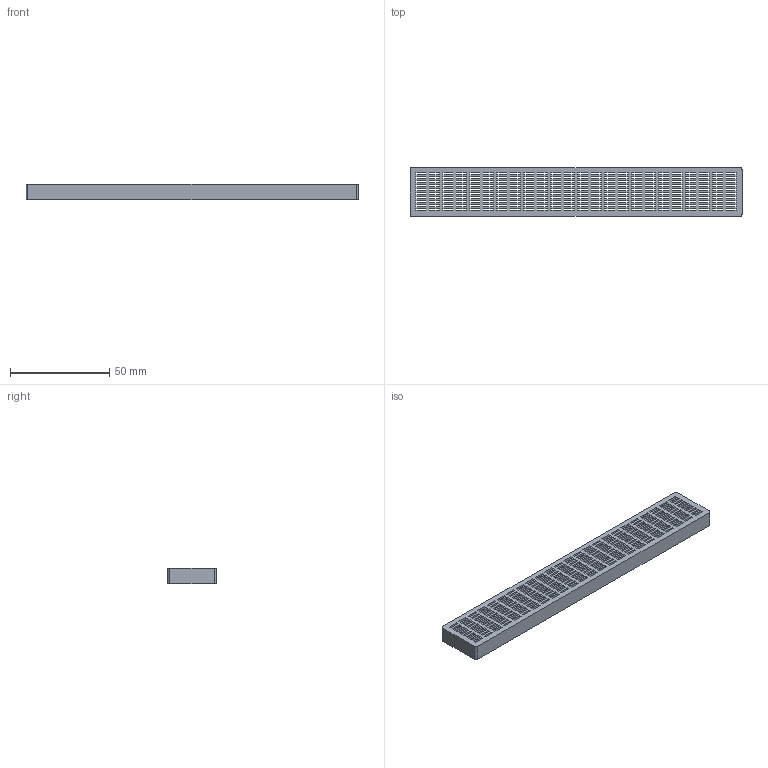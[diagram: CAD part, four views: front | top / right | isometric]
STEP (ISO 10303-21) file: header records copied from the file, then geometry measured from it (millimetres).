
FILE_DESCRIPTION(/* description */ (''),/* implementation_level */ '2;1');
FILE_NAME(/* name */ 'Lid.step',/* time_stamp */ '2025-12-16T12:00:42+09:00',/* author */ (''),/* organization */ (''),/* preprocessor_version */ 'ST-DEVELOPER v20.1',/* originating_system */ 'Autodesk Translation Framework v14.21.0.0',/* authorisation */ '');
FILE_SCHEMA (('AUTOMOTIVE_DESIGN { 1 0 10303 214 3 1 1 }'));
Length unit declared in the file: millimetre
Products named in the file (1): Lid
Bounding box: 167 x 24.62 x 8 mm (x, y, z)
Volume: 9386.9 mm3; surface area: 16242.8 mm2
Topology: 1 solids, 1 shells, 997 faces, 2968 edges, 1976 vertices
Faces by surface type: plane 985, cylinder 8, cone 4
Entity records: 33731 total; most frequent: CARTESIAN_POINT 5942, ORIENTED_EDGE 5936, DIRECTION 4984, EDGE_CURVE 2968, LINE 2948, VECTOR 2948, VERTEX_POINT 1976, EDGE_LOOP 1480
